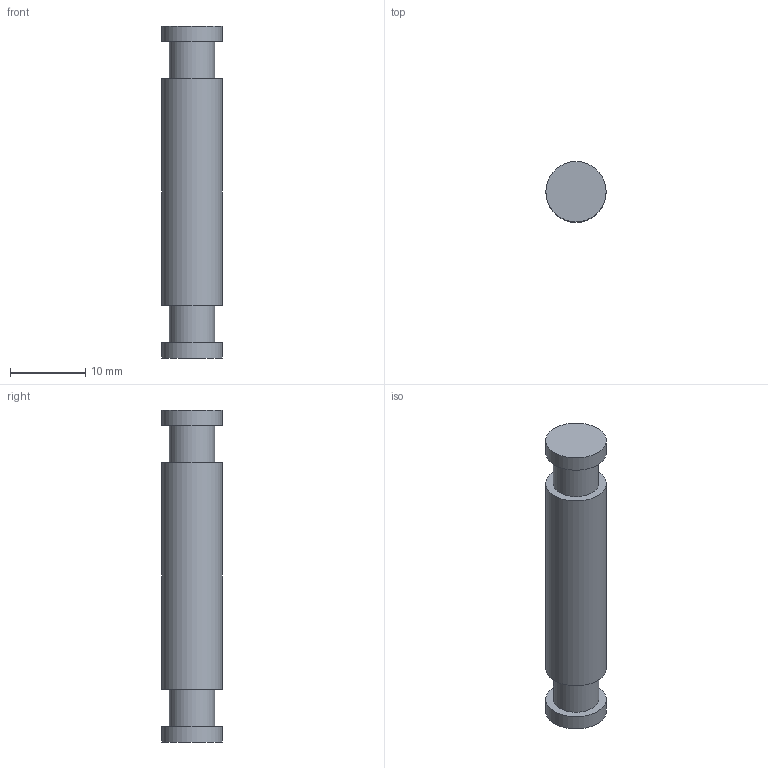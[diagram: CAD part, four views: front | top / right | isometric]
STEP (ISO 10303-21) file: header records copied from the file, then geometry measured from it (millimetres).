
FILE_DESCRIPTION((''),'2;1');
FILE_NAME('C:\Users\JamesRPatrick\Documents\Autodesk\PM422\STEP2.0\PM422TriggerPin2.stp','2015-08-22T19:01:49',('JamesRPatrick'),(''),'Autodesk Inventor 2012','Autodesk Inventor 2012','');
FILE_SCHEMA(('AUTOMOTIVE_DESIGN { 1 0 10303 214 1 1 1 1 }'));
Length unit declared in the file: millimetre
Products named in the file (1): PM422TriggerPin2
Bounding box: 8 x 8 x 44 mm (x, y, z)
Volume: 1991.8 mm3; surface area: 1231.5 mm2
Topology: 1 solids, 1 shells, 11 faces, 15 edges, 10 vertices
Faces by surface type: plane 6, cylinder 5
Full cylindrical faces by diameter (mm): 6 x2, 8 x3
Entity records: 240 total; most frequent: DIRECTION 44, CARTESIAN_POINT 32, AXIS2_PLACEMENT_3D 22, ORIENTED_EDGE 20, EDGE_LOOP 20, FACE_OUTER_BOUND 11, ADVANCED_FACE 11, VERTEX_POINT 10
